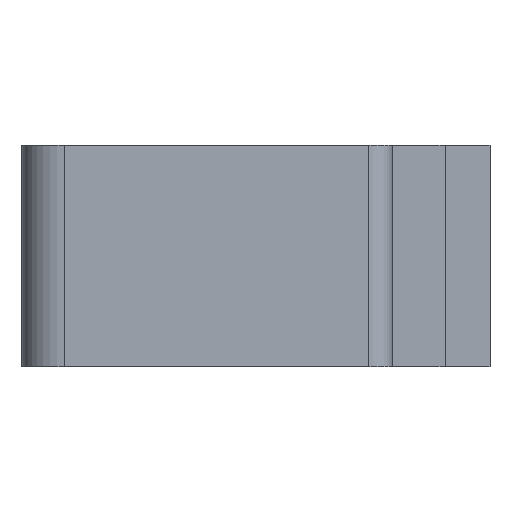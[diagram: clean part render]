
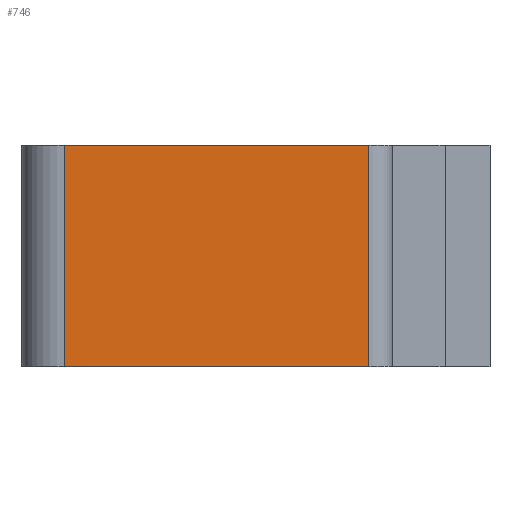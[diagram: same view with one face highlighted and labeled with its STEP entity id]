
A CAD part, left-side view. The second image highlights one B-rep face of the part: STEP entity #746.
In plain terms, the highlighted planar face has unit normal (-1, 0, 0).
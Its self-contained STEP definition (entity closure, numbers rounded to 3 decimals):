
#82=VERTEX_POINT('',#1079);
#83=VERTEX_POINT('',#1081);
#85=VERTEX_POINT('',#1087);
#86=VERTEX_POINT('',#1089);
#164=VECTOR('',#892,1.);
#166=VECTOR('',#897,1.);
#167=VECTOR('',#898,1.);
#168=VECTOR('',#899,1.);
#264=LINE('',#1080,#164);
#266=LINE('',#1086,#166);
#267=LINE('',#1088,#167);
#268=LINE('',#1090,#168);
#369=EDGE_CURVE('',#83,#82,#264,.T.);
#372=EDGE_CURVE('',#82,#85,#266,.T.);
#373=EDGE_CURVE('',#86,#85,#267,.T.);
#374=EDGE_CURVE('',#86,#83,#268,.T.);
#517=ORIENTED_EDGE('',*,*,#372,.T.);
#518=ORIENTED_EDGE('',*,*,#373,.F.);
#519=ORIENTED_EDGE('',*,*,#374,.T.);
#520=ORIENTED_EDGE('',*,*,#369,.T.);
#662=EDGE_LOOP('',(#517,#518,#519,#520));
#704=FACE_BOUND('',#662,.T.);
#746=ADVANCED_FACE('',(#704),#1211,.T.);
#792=AXIS2_PLACEMENT_3D('',#1085,#896,$);
#892=DIRECTION('',(0.,0.,1.));
#896=DIRECTION('',(-1.,0.,0.));
#897=DIRECTION('',(0.,1.,0.));
#898=DIRECTION('',(0.,0.,1.));
#899=DIRECTION('',(0.,-1.,0.));
#1079=CARTESIAN_POINT('',(-26.142,35.92,25.5));
#1080=CARTESIAN_POINT('',(-26.142,35.92,15.));
#1081=CARTESIAN_POINT('',(-26.142,35.92,15.));
#1085=CARTESIAN_POINT('',(-26.142,43.127,15.));
#1086=CARTESIAN_POINT('',(-26.142,50.335,25.5));
#1087=CARTESIAN_POINT('',(-26.142,50.335,25.5));
#1088=CARTESIAN_POINT('',(-26.142,50.335,15.));
#1089=CARTESIAN_POINT('',(-26.142,50.335,15.));
#1090=CARTESIAN_POINT('',(-26.142,50.335,15.));
#1211=PLANE('',#792);
